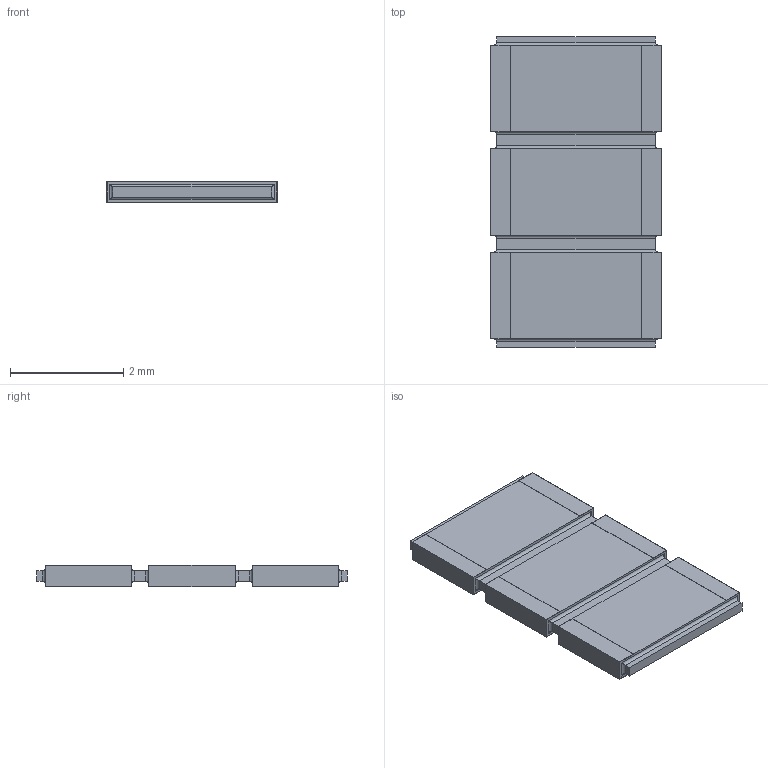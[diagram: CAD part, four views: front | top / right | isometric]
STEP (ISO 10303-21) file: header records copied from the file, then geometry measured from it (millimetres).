
FILE_DESCRIPTION(/* description */ (''),/* implementation_level */ '2;1');
FILE_NAME(/* name */ 'S:\DOCUMENT\AUTOCAD\3D_Modèles\10_3D-pour-VISHAY-COM\PRA\PRAHR182I3_B.stp',/* time_stamp */ '2018-02-02T10:52:24+01:00',/* author */ ('dparmentier'),/* organization */ ('unknown'),/* preprocessor_version */ 'ST-DEVELOPER v17',/* originating_system */ 'Autodesk Inventor 2018',/* authorisation */ '');
FILE_SCHEMA (('AUTOMOTIVE_DESIGN { 1 0 10303 214 3 1 1 }'));
Length unit declared in the file: millimetre
Products named in the file (1): PRAHR182I3_B
Bounding box: 3 x 5.47 x 0.38 mm (x, y, z)
Volume: 5.6 mm3; surface area: 59.3 mm2
Topology: 7 solids, 7 shells, 120 faces, 276 edges, 176 vertices
Faces by surface type: plane 96, cylinder 24
Entity records: 3359 total; most frequent: CARTESIAN_POINT 573, ORIENTED_EDGE 552, DIRECTION 542, EDGE_CURVE 276, LINE 252, VECTOR 252, VERTEX_POINT 176, AXIS2_PLACEMENT_3D 145
